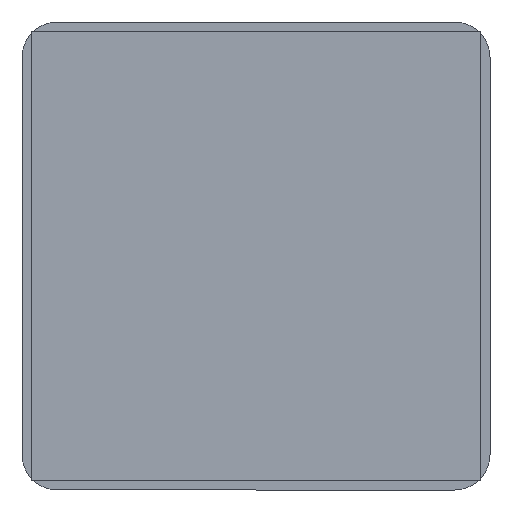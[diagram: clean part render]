
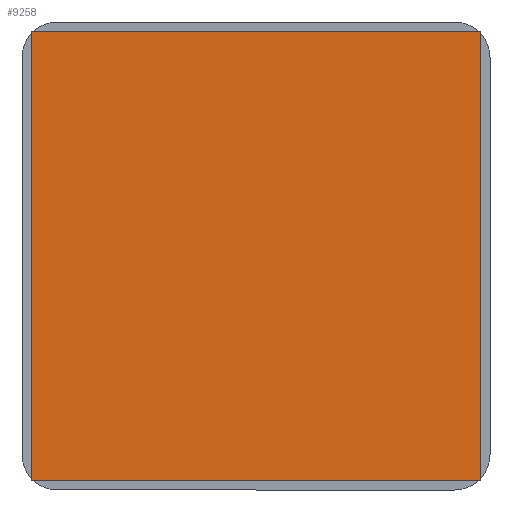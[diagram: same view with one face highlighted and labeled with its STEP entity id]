
A CAD part, front view. The second image highlights one B-rep face of the part: STEP entity #9258.
In plain terms, the highlighted planar face has unit normal (0, -1, 0).
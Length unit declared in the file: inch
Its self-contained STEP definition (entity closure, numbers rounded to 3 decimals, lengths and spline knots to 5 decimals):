
#114 = DIRECTION ( 'NONE',  ( 0., -1., 0. ) ) ;
#293 = DIRECTION ( 'NONE',  ( 1., 0., 0. ) ) ;
#1997 = VECTOR ( 'NONE', #6103, 39.37008 ) ;
#2013 = CARTESIAN_POINT ( 'NONE',  ( 0.74803, -0.005, 0.74803 ) ) ;
#3351 = VERTEX_POINT ( 'NONE', #13547 ) ;
#3525 = DIRECTION ( 'NONE',  ( -1., 0., 0. ) ) ;
#3544 = CARTESIAN_POINT ( 'NONE',  ( -0.74803, -0.005, 0.74803 ) ) ;
#4562 = CARTESIAN_POINT ( 'NONE',  ( -0.74803, -0.005, -0.74803 ) ) ;
#4634 = CARTESIAN_POINT ( 'NONE',  ( -0.74803, -0.005, -0.74803 ) ) ;
#5076 = ORIENTED_EDGE ( 'NONE', *, *, #15645, .T. ) ;
#5140 = LINE ( 'NONE', #10408, #12410 ) ;
#5645 = AXIS2_PLACEMENT_3D ( 'NONE', #6292, #114, #12753 ) ;
#5949 = LINE ( 'NONE', #11004, #6960 ) ;
#6103 = DIRECTION ( 'NONE',  ( 0., 0., -1. ) ) ;
#6292 = CARTESIAN_POINT ( 'NONE',  ( 0.74803, -0.005, 0.74803 ) ) ;
#6524 = CARTESIAN_POINT ( 'NONE',  ( 0.74803, -0.005, -0.74803 ) ) ;
#6567 = ORIENTED_EDGE ( 'NONE', *, *, #9527, .T. ) ;
#6960 = VECTOR ( 'NONE', #3525, 39.37008 ) ;
#7120 = EDGE_CURVE ( 'NONE', #7184, #3351, #14285, .T. ) ;
#7184 = VERTEX_POINT ( 'NONE', #4562 ) ;
#8250 = ORIENTED_EDGE ( 'NONE', *, *, #7120, .T. ) ;
#8728 = PLANE ( 'NONE',  #5645 ) ;
#9092 = EDGE_CURVE ( 'NONE', #10817, #12459, #5949, .T. ) ;
#9258 = ADVANCED_FACE ( 'NONE', ( #12825 ), #8728, .T. ) ;
#9527 = EDGE_CURVE ( 'NONE', #12459, #7184, #13540, .T. ) ;
#10408 = CARTESIAN_POINT ( 'NONE',  ( 0.74803, -0.005, -0.74803 ) ) ;
#10817 = VERTEX_POINT ( 'NONE', #2013 ) ;
#11004 = CARTESIAN_POINT ( 'NONE',  ( 0.74803, -0.005, 0.74803 ) ) ;
#11574 = VECTOR ( 'NONE', #293, 39.37008 ) ;
#12410 = VECTOR ( 'NONE', #15158, 39.37008 ) ;
#12459 = VERTEX_POINT ( 'NONE', #3544 ) ;
#12753 = DIRECTION ( 'NONE',  ( 0., 0., 1. ) ) ;
#12825 = FACE_OUTER_BOUND ( 'NONE', #14602, .T. ) ;
#13540 = LINE ( 'NONE', #4634, #1997 ) ;
#13547 = CARTESIAN_POINT ( 'NONE',  ( 0.74803, -0.005, -0.74803 ) ) ;
#14231 = ORIENTED_EDGE ( 'NONE', *, *, #9092, .T. ) ;
#14285 = LINE ( 'NONE', #6524, #11574 ) ;
#14602 = EDGE_LOOP ( 'NONE', ( #5076, #14231, #6567, #8250 ) ) ;
#15158 = DIRECTION ( 'NONE',  ( 0., 0., 1. ) ) ;
#15645 = EDGE_CURVE ( 'NONE', #3351, #10817, #5140, .T. ) ;
